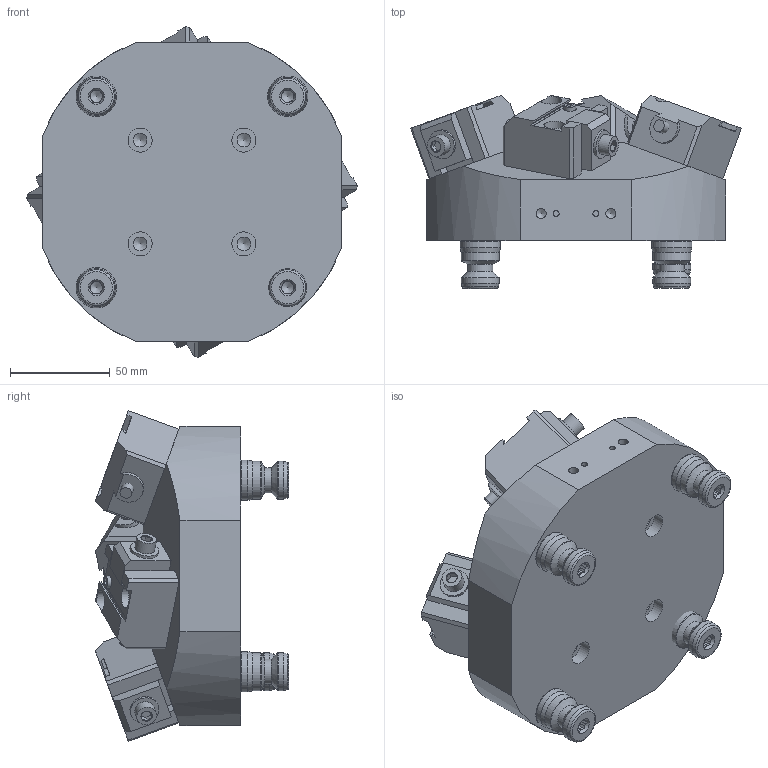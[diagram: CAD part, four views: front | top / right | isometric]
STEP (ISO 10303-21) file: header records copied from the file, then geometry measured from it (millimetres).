
FILE_DESCRIPTION (( 'STEP AP214' ), '1' );
FILE_NAME ('A96-P4DM25_WEBSITE.STEP', '2025-08-11T13:24:46', ( '' ), ( '' ), 'SwSTEP 2.0', 'SolidWorks 2025', '' );
FILE_SCHEMA (( 'AUTOMOTIVE_DESIGN' ));
Length unit declared in the file: inch
Products named in the file (14): D_M6 Flat Washer_WEBSITE; A96-P4DM25_WEBSITE; D_39874.CPSS_WEBSITE_91390A162; D_DM25 Spring_WEBSITE; D_DM25 Clamp-2_WEBSITE_SLD25; D_PS20F_WEBSITE; D_AU-P4DM25-1_WEBSITE_ER COLLET FIXTURE PYRAMID; D_DM25 Body_WEBSITE_MILL OP2; D_LP6_WEBSITE_LP6; D_PS20F-1_WEBSITE_HARD TURN; D_DM25 Clamp-1_WEBSITE; D_DM25_WEBSITE; D_ M6-1.0MM X 55MM SHCS_WEBSITE; D_M6-1.0MM X 20MM SHCS_WEBSITE
Assembly tree (22 placements, depth 3):
  A96-P4DM25_WEBSITE
    D_AU-P4DM25-1_WEBSITE_ER COLLET FIXTURE PYRAMID
    D_PS20F_WEBSITE  x4
      D_PS20F-1_WEBSITE_HARD TURN
      D_39874.CPSS_WEBSITE_91390A162
    D_DM25_WEBSITE  x4
      D_DM25 Body_WEBSITE_MILL OP2
      D_ M6-1.0MM X 55MM SHCS_WEBSITE
      D_DM25 Clamp-1_WEBSITE
      D_DM25 Clamp-2_WEBSITE_SLD25
      D_DM25 Spring_WEBSITE
      D_M6 Flat Washer_WEBSITE
      D_M6-1.0MM X 20MM SHCS_WEBSITE
      D_LP6_WEBSITE_LP6
Bounding box: 165.78 x 96.88 x 165.78 mm (x, y, z)
Volume: 944672 mm3; surface area: 164443.9 mm2
Topology: 53 solids, 53 shells, 1102 faces, 2354 edges, 1464 vertices
Faces by surface type: plane 636, cylinder 226, cone 204, torus 20, bspline 16
Full cylindrical faces by diameter (mm): 3.03 x4, 3.3 x2, 4 x2, 4.2 x8, 5 x34, 6 x24, 6.025 x16, 6.147 x4, 6.365 x12, 6.4 x4, 6.477 x8, 6.604 x4, 6.756 x4, 6.8 x4, 8.5 x8, 9.525 x4, 10 x20, 10.795 x8, 12.017 x4, 12.497 x4, 12.69 x4, 12.7 x4, 12.738 x8, 14.4 x4, 16.02 x4, 16.297 x4, 19.012 x8, 20.277 x4
Entity records: 10822 total; most frequent: CARTESIAN_POINT 2991, DIRECTION 1463, ORIENTED_EDGE 1054, AXIS2_PLACEMENT_3D 624, EDGE_LOOP 563, EDGE_CURVE 527, FACE_OUTER_BOUND 442, VERTEX_POINT 408
